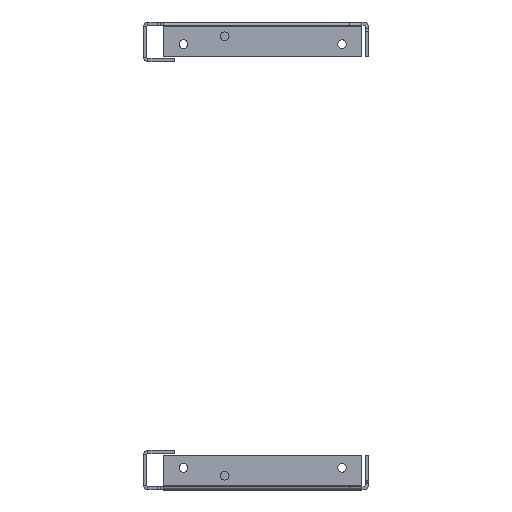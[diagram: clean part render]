
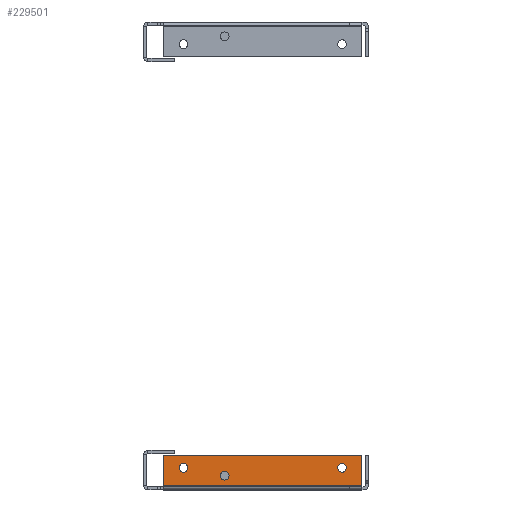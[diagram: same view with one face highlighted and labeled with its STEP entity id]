
A CAD part, left-side view. The second image highlights one B-rep face of the part: STEP entity #229501.
In plain terms, the highlighted planar face has unit normal (-1, 0, 0).
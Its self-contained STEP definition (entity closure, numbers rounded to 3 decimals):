
#177376=CARTESIAN_POINT(' ',(-770.,-68.75,2.6));
#177377=VERTEX_POINT(' ',#177376);
#177391=CARTESIAN_POINT(' ',(-770.,-68.75,2.6));
#177396=DIRECTION(' ',(0.,1.,0.));
#177401=VECTOR(' ',#177396,1.);
#177406=LINE('',#177391,#177401);
#177411=CARTESIAN_POINT(' ',(-770.,56.25,2.6));
#177412=VERTEX_POINT(' ',#177411);
#177416=EDGE_CURVE(' ',#177377,#177412,#177406,.T.);
#229091=DIRECTION(' ',(-1.,0.,0.));
#229096=CARTESIAN_POINT(' ',(-770.,56.25,22.));
#229101=DIRECTION(' ',(0.,0.,-1.));
#229106=AXIS2_PLACEMENT_3D(' ',#229096,#229091,#229101);
#229111=PLANE('NONE',#229106);
#229116=CARTESIAN_POINT(' ',(-770.,-68.75,22.));
#229121=DIRECTION(' ',(0.,1.,0.));
#229126=VECTOR(' ',#229121,1.);
#229131=LINE('',#229116,#229126);
#229136=CARTESIAN_POINT(' ',(-770.,-68.75,22.));
#229137=VERTEX_POINT(' ',#229136);
#229141=CARTESIAN_POINT(' ',(-770.,56.25,22.));
#229142=VERTEX_POINT(' ',#229141);
#229146=EDGE_CURVE(' ',#229137,#229142,#229131,.T.);
#229151=ORIENTED_EDGE(' ',*,*,#229146,.T.);
#229156=CARTESIAN_POINT(' ',(-770.,56.25,22.));
#229161=DIRECTION(' ',(0.,0.,-1.));
#229166=VECTOR(' ',#229161,1.);
#229171=LINE('',#229156,#229166);
#229176=EDGE_CURVE(' ',#229142,#177412,#229171,.T.);
#229181=ORIENTED_EDGE(' ',*,*,#229176,.T.);
#229186=ORIENTED_EDGE(' ',*,*,#177416,.F.);
#229191=CARTESIAN_POINT(' ',(-770.,-68.75,2.6));
#229196=DIRECTION(' ',(0.,0.,1.));
#229201=VECTOR(' ',#229196,1.);
#229206=LINE('',#229191,#229201);
#229211=EDGE_CURVE(' ',#177377,#229137,#229206,.T.);
#229216=ORIENTED_EDGE(' ',*,*,#229211,.T.);
#229221=EDGE_LOOP(' ',(#229151,#229181,#229186,#229216));
#229226=FACE_OUTER_BOUND(' ',#229221,.T.);
#229231=CARTESIAN_POINT(' ',(-770.,-56.25,14.));
#229236=DIRECTION(' ',(1.,0.,0.));
#229241=DIRECTION(' ',(0.,0.,-1.));
#229246=AXIS2_PLACEMENT_3D(' ',#229231,#229236,#229241);
#229251=CIRCLE('',#229246,2.75);
#229256=CARTESIAN_POINT(' ',(-770.,-56.25,11.25));
#229257=VERTEX_POINT(' ',#229256);
#229261=CARTESIAN_POINT(' ',(-770.,-56.25,16.75));
#229262=VERTEX_POINT(' ',#229261);
#229266=EDGE_CURVE(' ',#229257,#229262,#229251,.T.);
#229271=ORIENTED_EDGE(' ',*,*,#229266,.T.);
#229276=CARTESIAN_POINT(' ',(-770.,-56.25,14.));
#229281=DIRECTION(' ',(1.,-0.,0.));
#229286=DIRECTION(' ',(0.,0.,1.));
#229291=AXIS2_PLACEMENT_3D(' ',#229276,#229281,#229286);
#229296=CIRCLE('',#229291,2.75);
#229301=EDGE_CURVE(' ',#229262,#229257,#229296,.T.);
#229306=ORIENTED_EDGE(' ',*,*,#229301,.T.);
#229311=EDGE_LOOP(' ',(#229271,#229306));
#229316=FACE_BOUND(' ',#229311,.T.);
#229321=CARTESIAN_POINT(' ',(-770.,43.75,14.));
#229326=DIRECTION(' ',(1.,0.,0.));
#229331=DIRECTION(' ',(0.,0.,-1.));
#229336=AXIS2_PLACEMENT_3D(' ',#229321,#229326,#229331);
#229341=CIRCLE('',#229336,2.75);
#229346=CARTESIAN_POINT(' ',(-770.,43.75,11.25));
#229347=VERTEX_POINT(' ',#229346);
#229351=CARTESIAN_POINT(' ',(-770.,43.75,16.75));
#229352=VERTEX_POINT(' ',#229351);
#229356=EDGE_CURVE(' ',#229347,#229352,#229341,.T.);
#229361=ORIENTED_EDGE(' ',*,*,#229356,.T.);
#229366=CARTESIAN_POINT(' ',(-770.,43.75,14.));
#229371=DIRECTION(' ',(1.,-0.,0.));
#229376=DIRECTION(' ',(0.,0.,1.));
#229381=AXIS2_PLACEMENT_3D(' ',#229366,#229371,#229376);
#229386=CIRCLE('',#229381,2.75);
#229391=EDGE_CURVE(' ',#229352,#229347,#229386,.T.);
#229396=ORIENTED_EDGE(' ',*,*,#229391,.T.);
#229401=EDGE_LOOP(' ',(#229361,#229396));
#229406=FACE_BOUND(' ',#229401,.T.);
#229411=CARTESIAN_POINT(' ',(-770.,17.75,9.));
#229416=DIRECTION(' ',(1.,0.,0.));
#229421=DIRECTION(' ',(0.,-1.,0.));
#229426=AXIS2_PLACEMENT_3D(' ',#229411,#229416,#229421);
#229431=CIRCLE('',#229426,2.75);
#229436=CARTESIAN_POINT(' ',(-770.,15.,9.));
#229437=VERTEX_POINT(' ',#229436);
#229441=CARTESIAN_POINT(' ',(-770.,20.5,9.));
#229442=VERTEX_POINT(' ',#229441);
#229446=EDGE_CURVE(' ',#229437,#229442,#229431,.T.);
#229451=ORIENTED_EDGE(' ',*,*,#229446,.T.);
#229456=CARTESIAN_POINT(' ',(-770.,17.75,9.));
#229461=DIRECTION(' ',(1.,0.,0.));
#229466=DIRECTION(' ',(0.,1.,0.));
#229471=AXIS2_PLACEMENT_3D(' ',#229456,#229461,#229466);
#229476=CIRCLE('',#229471,2.75);
#229481=EDGE_CURVE(' ',#229442,#229437,#229476,.T.);
#229486=ORIENTED_EDGE(' ',*,*,#229481,.T.);
#229491=EDGE_LOOP(' ',(#229451,#229486));
#229496=FACE_BOUND(' ',#229491,.T.);
#229501=ADVANCED_FACE('NONE',(#229226,#229316,#229406,#229496),#229111,.T.);
